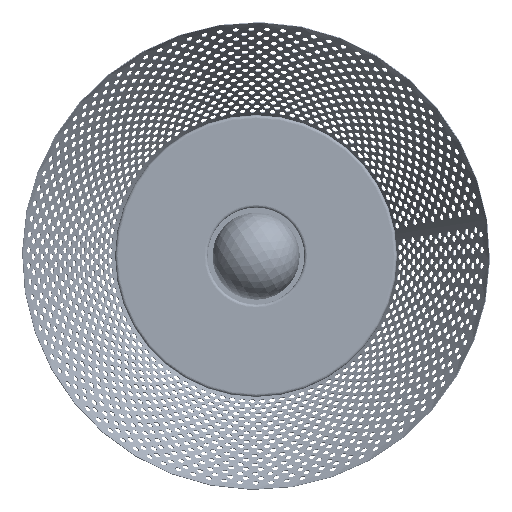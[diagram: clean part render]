
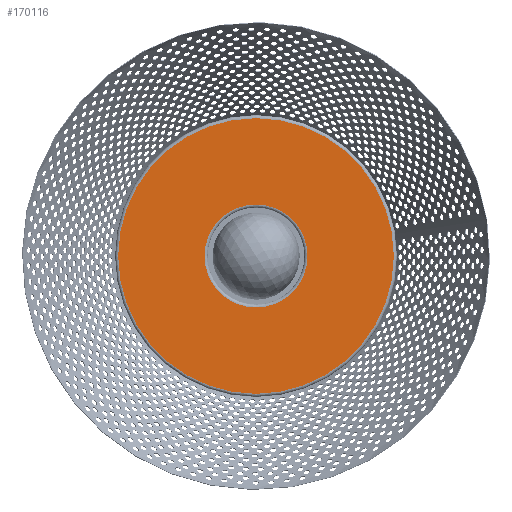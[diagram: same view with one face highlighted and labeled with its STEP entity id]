
A CAD part, front view. The second image highlights one B-rep face of the part: STEP entity #170116.
In plain terms, the highlighted planar face has unit normal (0, -1, 0).
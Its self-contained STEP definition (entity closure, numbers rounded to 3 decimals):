
#21089 = DIRECTION ( 'NONE',  ( 0., -1., 0. ) ) ;
#52576 = DIRECTION ( 'NONE',  ( 0., -1., 0. ) ) ;
#58050 = FACE_OUTER_BOUND ( 'NONE', #304915, .T. ) ;
#60960 = ORIENTED_EDGE ( 'NONE', *, *, #73189, .T. ) ;
#73189 = EDGE_CURVE ( 'NONE', #201846, #346043, #465738, .T. ) ;
#105221 = DIRECTION ( 'NONE',  ( 1., 0., 0. ) ) ;
#107759 = CARTESIAN_POINT ( 'NONE',  ( -33., -102., 0. ) ) ;
#108578 = PLANE ( 'NONE',  #390492 ) ;
#137822 = CIRCLE ( 'NONE', #317818, 33. ) ;
#170116 = ADVANCED_FACE ( 'NONE', ( #394292, #58050 ), #108578, .T. ) ;
#183795 = CARTESIAN_POINT ( 'NONE',  ( -92.094, -102., 0. ) ) ;
#195911 = DIRECTION ( 'NONE',  ( 1., 0., 0. ) ) ;
#201846 = VERTEX_POINT ( 'NONE', #482185 ) ;
#202712 = CIRCLE ( 'NONE', #232011, 88.333 ) ;
#206238 = CARTESIAN_POINT ( 'NONE',  ( 88.333, -102., 0. ) ) ;
#206830 = EDGE_CURVE ( 'NONE', #503711, #232190, #202712, .T. ) ;
#218955 = ORIENTED_EDGE ( 'NONE', *, *, #502245, .T. ) ;
#232011 = AXIS2_PLACEMENT_3D ( 'NONE', #328597, #21089, #408881 ) ;
#232190 = VERTEX_POINT ( 'NONE', #463468 ) ;
#233803 = DIRECTION ( 'NONE',  ( 0., 1., 0. ) ) ;
#235529 = AXIS2_PLACEMENT_3D ( 'NONE', #470840, #503343, #195911 ) ;
#261857 = EDGE_CURVE ( 'NONE', #232190, #503711, #387691, .T. ) ;
#271402 = CARTESIAN_POINT ( 'NONE',  ( 0., -102., 0. ) ) ;
#286540 = CARTESIAN_POINT ( 'NONE',  ( 0., -102., 0. ) ) ;
#304915 = EDGE_LOOP ( 'NONE', ( #361680, #375511 ) ) ;
#317818 = AXIS2_PLACEMENT_3D ( 'NONE', #271402, #233803, #423479 ) ;
#325864 = DIRECTION ( 'NONE',  ( 1., 0., 0. ) ) ;
#328597 = CARTESIAN_POINT ( 'NONE',  ( 0., -102., 0. ) ) ;
#342536 = DIRECTION ( 'NONE',  ( 0., -1., 0. ) ) ;
#346043 = VERTEX_POINT ( 'NONE', #107759 ) ;
#361680 = ORIENTED_EDGE ( 'NONE', *, *, #206830, .T. ) ;
#375511 = ORIENTED_EDGE ( 'NONE', *, *, #261857, .T. ) ;
#387691 = CIRCLE ( 'NONE', #439980, 88.333 ) ;
#390492 = AXIS2_PLACEMENT_3D ( 'NONE', #183795, #342536, #105221 ) ;
#394292 = FACE_BOUND ( 'NONE', #439746, .T. ) ;
#408881 = DIRECTION ( 'NONE',  ( 1., 0., 0. ) ) ;
#423479 = DIRECTION ( 'NONE',  ( 1., 0., 0. ) ) ;
#439746 = EDGE_LOOP ( 'NONE', ( #60960, #218955 ) ) ;
#439980 = AXIS2_PLACEMENT_3D ( 'NONE', #286540, #52576, #325864 ) ;
#463468 = CARTESIAN_POINT ( 'NONE',  ( -88.333, -102., 0. ) ) ;
#465738 = CIRCLE ( 'NONE', #235529, 33. ) ;
#470840 = CARTESIAN_POINT ( 'NONE',  ( 0., -102., 0. ) ) ;
#482185 = CARTESIAN_POINT ( 'NONE',  ( 33., -102., 0. ) ) ;
#502245 = EDGE_CURVE ( 'NONE', #346043, #201846, #137822, .T. ) ;
#503343 = DIRECTION ( 'NONE',  ( 0., 1., 0. ) ) ;
#503711 = VERTEX_POINT ( 'NONE', #206238 ) ;
